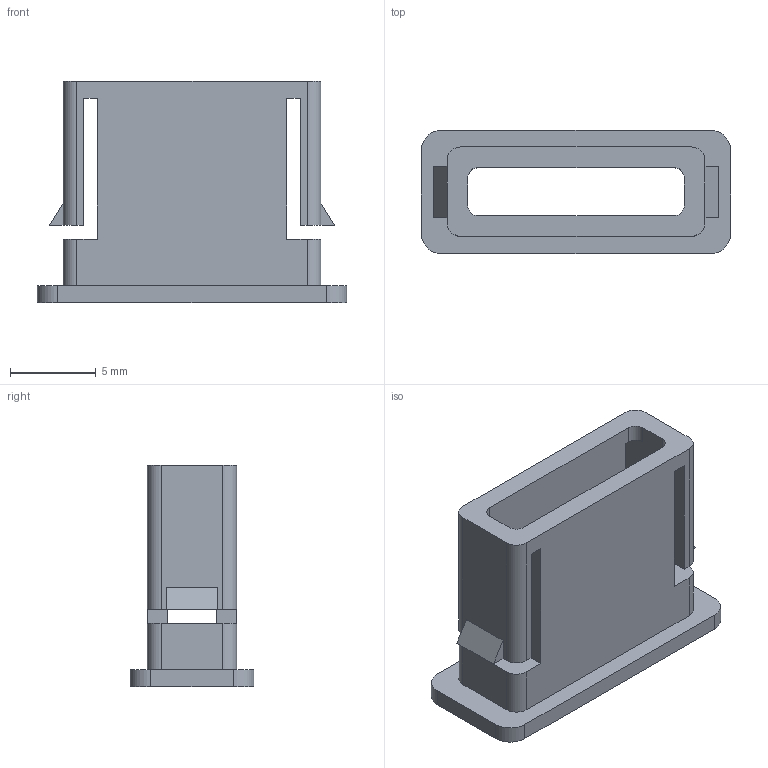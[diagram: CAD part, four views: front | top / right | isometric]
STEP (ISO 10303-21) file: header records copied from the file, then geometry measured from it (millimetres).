
FILE_DESCRIPTION(('Open CASCADE Model'),'2;1');
FILE_NAME('Open CASCADE Shape Model','2026-11-28T16:01:08',('Author'),( 'Open CASCADE'),'Open CASCADE STEP processor 8.0','build123d', 'Unknown');
FILE_SCHEMA(('AUTOMOTIVE_DESIGN { 1 0 10303 214 1 1 1 1 }'));
Length unit declared in the file: millimetre
Products named in the file (2): =>[0:1:1:2]; SOLID
Assembly tree (1 placements, depth 2):
  =>[0:1:1:2]
    SOLID
Bounding box: 18 x 7.2 x 12.89 mm (x, y, z)
Volume: 547.6 mm3; surface area: 1141.1 mm2
Topology: 1 solids, 1 shells, 66 faces, 198 edges, 132 vertices
Faces by surface type: plane 42, cylinder 24
Entity records: 4836 total; most frequent: CARTESIAN_POINT 1054, DIRECTION 658, LINE 406, VECTOR 406, ORIENTED_EDGE 396, PCURVE 396, DEFINITIONAL_REPRESENTATION 396, EDGE_CURVE 198
